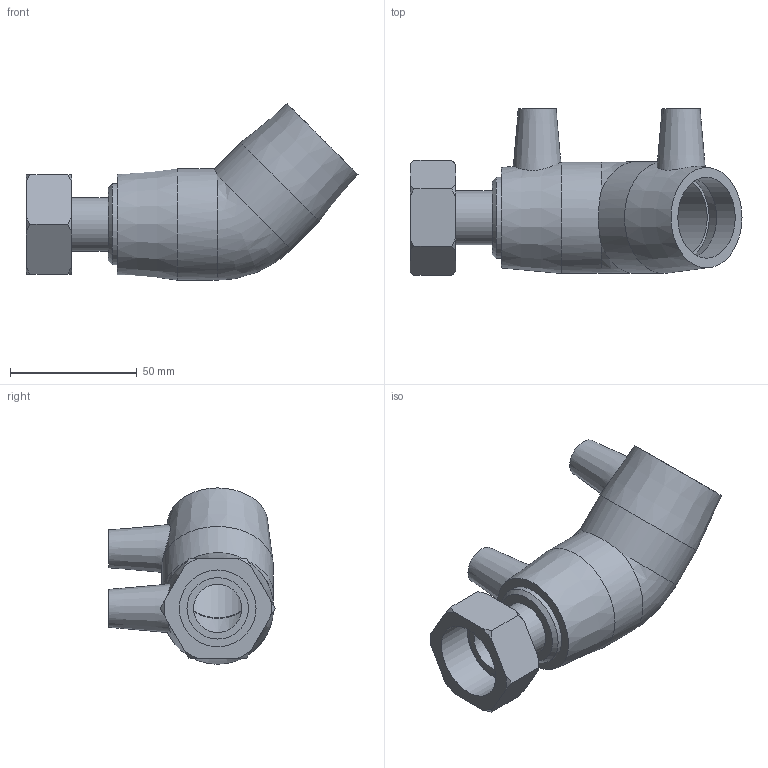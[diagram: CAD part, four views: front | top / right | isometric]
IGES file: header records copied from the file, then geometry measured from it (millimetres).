
Global section: file name: 494604032010.ipt; native system: Autodesk Inventor 2015; preprocessor: unknown; author: KIM; date: 20171106.094152; units: millimetre
Bounding box: 131 x 65.72 x 69.55 mm (x, y, z)
Volume: 108023.4 mm3; surface area: 35467.3 mm2
Topology: 1 solids, 2 shells, 60 faces, 147 edges, 100 vertices
Faces by surface type: plane 23, cone 17, revolution 11, cylinder 8, bspline 1
Full cylindrical faces by diameter (mm): 4 x2, 21.204 x1, 24.233 x1, 32 x2, 44 x2
